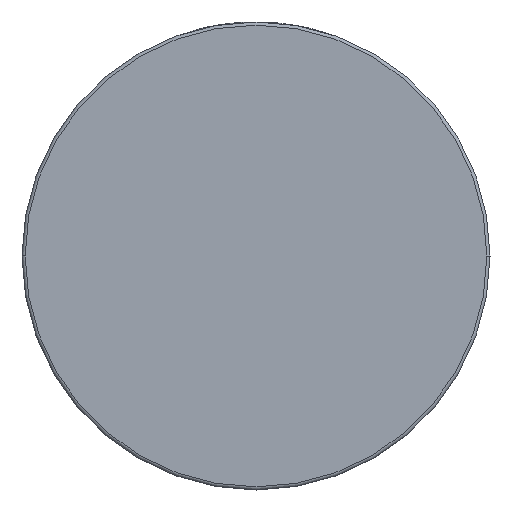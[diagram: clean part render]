
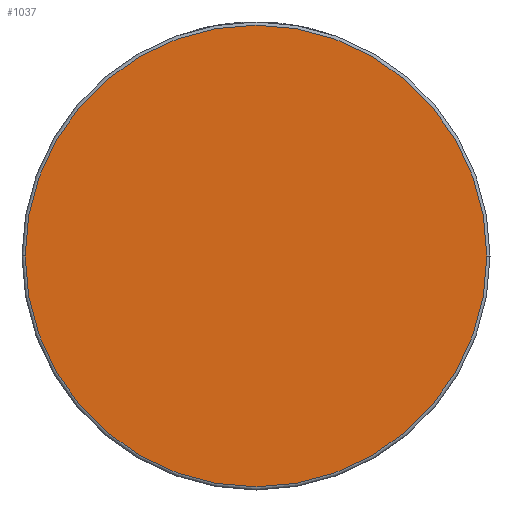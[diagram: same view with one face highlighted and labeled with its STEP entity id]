
A CAD part, front view. The second image highlights one B-rep face of the part: STEP entity #1037.
In plain terms, the highlighted planar face has unit normal (0, -1, 0).
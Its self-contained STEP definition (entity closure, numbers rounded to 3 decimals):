
#54 = CIRCLE ( 'NONE', #1866, 73. ) ;
#76 = DIRECTION ( 'NONE',  ( 0., -1., 0. ) ) ;
#356 = CARTESIAN_POINT ( 'NONE',  ( 74., -31.5, 0. ) ) ;
#360 = EDGE_CURVE ( 'NONE', #2396, #1559, #54, .T. ) ;
#370 = EDGE_LOOP ( 'NONE', ( #1960, #3363 ) ) ;
#565 = DIRECTION ( 'NONE',  ( 1., 0., 0. ) ) ;
#1016 = FACE_OUTER_BOUND ( 'NONE', #370, .T. ) ;
#1037 = ADVANCED_FACE ( 'NONE', ( #1016 ), #4109, .T. ) ;
#1559 = VERTEX_POINT ( 'NONE', #4142 ) ;
#1866 = AXIS2_PLACEMENT_3D ( 'NONE', #2613, #3902, #565 ) ;
#1960 = ORIENTED_EDGE ( 'NONE', *, *, #360, .T. ) ;
#2081 = CARTESIAN_POINT ( 'NONE',  ( 73., -31.5, 0. ) ) ;
#2354 = DIRECTION ( 'NONE',  ( 1., 0., 0. ) ) ;
#2396 = VERTEX_POINT ( 'NONE', #2081 ) ;
#2582 = AXIS2_PLACEMENT_3D ( 'NONE', #3257, #4222, #3604 ) ;
#2613 = CARTESIAN_POINT ( 'NONE',  ( 0., -31.5, 0. ) ) ;
#3257 = CARTESIAN_POINT ( 'NONE',  ( 0., -31.5, 0. ) ) ;
#3350 = EDGE_CURVE ( 'NONE', #1559, #2396, #4204, .T. ) ;
#3363 = ORIENTED_EDGE ( 'NONE', *, *, #3350, .T. ) ;
#3604 = DIRECTION ( 'NONE',  ( 1., 0., 0. ) ) ;
#3633 = AXIS2_PLACEMENT_3D ( 'NONE', #356, #76, #2354 ) ;
#3902 = DIRECTION ( 'NONE',  ( 0., -1., 0. ) ) ;
#4109 = PLANE ( 'NONE',  #3633 ) ;
#4142 = CARTESIAN_POINT ( 'NONE',  ( -73., -31.5, 0. ) ) ;
#4204 = CIRCLE ( 'NONE', #2582, 73. ) ;
#4222 = DIRECTION ( 'NONE',  ( 0., -1., 0. ) ) ;
